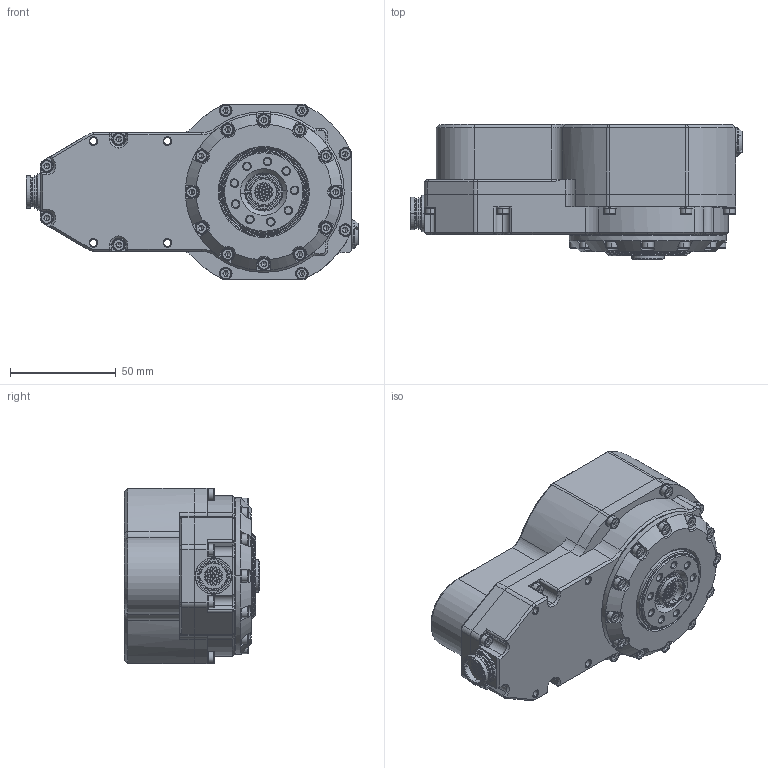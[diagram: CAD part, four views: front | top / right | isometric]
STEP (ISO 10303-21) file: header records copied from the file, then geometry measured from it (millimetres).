
FILE_DESCRIPTION (( 'STEP AP203' ), '1' );
FILE_NAME ('Ñåðâîïðèâîä 36 Íì.STEP', '2015-08-19T11:02:21', ( '' ), ( '' ), 'SwSTEP 2.0', 'SolidWorks 2015', '' );
FILE_SCHEMA (( 'CONFIG_CONTROL_DESIGN' ));
Length unit declared in the file: millimetre
Products named in the file (1): Ñåðâîïðèâîä 36 Íì
Bounding box: 156.8 x 63.8 x 83 mm (x, y, z)
Volume: 471316.6 mm3; surface area: 77662.9 mm2
Topology: 39 solids, 57 shells, 2103 faces, 4829 edges, 2986 vertices
Faces by surface type: plane 784, cylinder 773, cone 432, torus 90, bspline 24
Entity records: 60584 total; most frequent: CARTESIAN_POINT 11668, DIRECTION 11155, ORIENTED_EDGE 9496, EDGE_CURVE 4748, AXIS2_PLACEMENT_3D 4541, VERTEX_POINT 2986, CIRCLE 2461, EDGE_LOOP 2414
